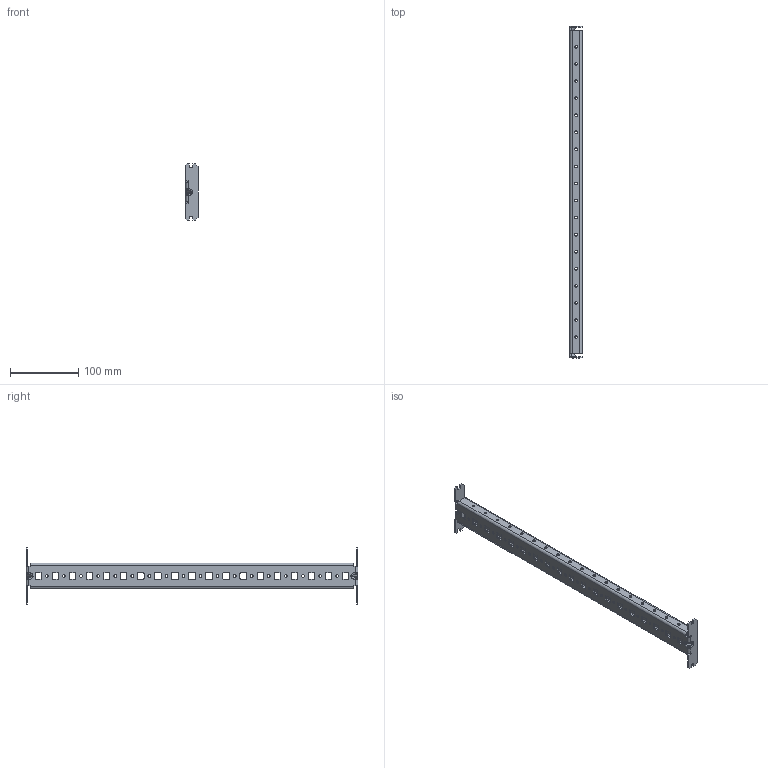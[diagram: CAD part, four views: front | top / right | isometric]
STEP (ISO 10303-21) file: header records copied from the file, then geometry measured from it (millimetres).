
FILE_DESCRIPTION (( 'STEP AP203' ), '1' );
FILE_NAME ('MG 60.04 CL Òðàâåðñà ìîíòàæíàÿ.STEP', '2015-07-21T10:50:27', ( 'System' ), ( '' ), 'SwSTEP 2.0', 'SolidWorks 2012', '' );
FILE_SCHEMA (( 'CONFIG_CONTROL_DESIGN' ));
Length unit declared in the file: millimetre
Products named in the file (1): MG 60.04 CL Òðàâåðñà ìîíòàæíàÿ
Bounding box: 18.5 x 486 x 82.5 mm (x, y, z)
Volume: 80580.6 mm3; surface area: 86284.9 mm2
Topology: 1 solids, 1 shells, 412 faces, 1158 edges, 748 vertices
Faces by surface type: cylinder 214, plane 158, bspline 32, torus 8
Entity records: 14335 total; most frequent: CARTESIAN_POINT 3207, DIRECTION 2316, ORIENTED_EDGE 2316, EDGE_CURVE 1158, AXIS2_PLACEMENT_3D 841, VERTEX_POINT 748, LINE 634, VECTOR 634
